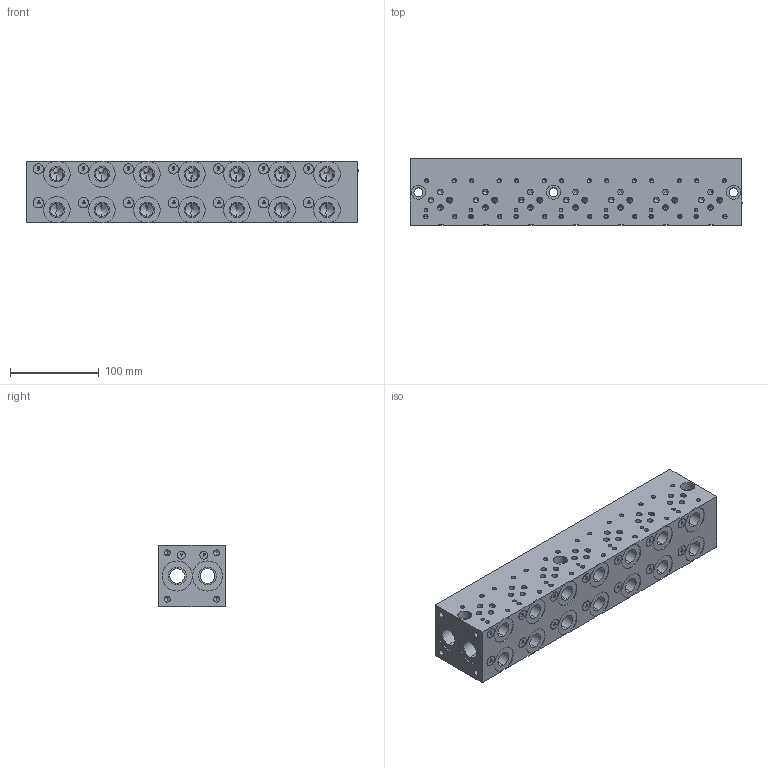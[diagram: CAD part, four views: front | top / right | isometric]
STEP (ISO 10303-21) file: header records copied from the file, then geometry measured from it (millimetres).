
FILE_DESCRIPTION (( 'STEP AP203' ), '1' );
FILE_NAME ('BM-ASP03S2-07-1_Z.STEP', '2015-01-06T15:40:03', ( '' ), ( '' ), 'SwSTEP 2.0', 'SolidWorks 2014', '' );
FILE_SCHEMA (( 'CONFIG_CONTROL_DESIGN' ));
Length unit declared in the file: inch
Products named in the file (1): BM-ASP03S2-07-1_Z
Bounding box: 374.65 x 74.93 x 69.85 mm (x, y, z)
Volume: 1656576.3 mm3; surface area: 208428.2 mm2
Topology: 1 solids, 1 shells, 901 faces, 2299 edges, 1411 vertices
Faces by surface type: cylinder 360, plane 307, cone 159, bspline 75
Entity records: 32616 total; most frequent: CARTESIAN_POINT 11573, ORIENTED_EDGE 4322, DIRECTION 4196, EDGE_CURVE 2161, AXIS2_PLACEMENT_3D 1522, VERTEX_POINT 1411, VECTOR 1152, LINE 1152
